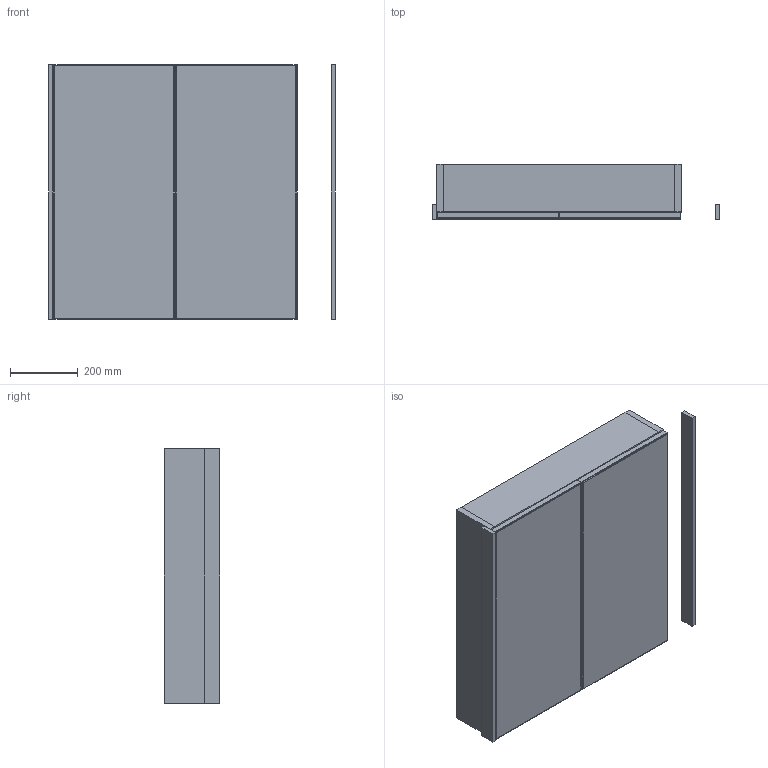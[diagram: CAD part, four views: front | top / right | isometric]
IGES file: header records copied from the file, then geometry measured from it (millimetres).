
Start section: Data from Parasolid IGES Translator 19.0.9, Copyright(c) 2006 Siemens PL M Software. All Rights Reserved.
Global section: file name: noorth-mirror-H 75 D 4,5-16 W 75_9135.igs; native system: By Siemens PLM Incorporated; preprocessor: XPlus GENERIC/IGES 19.0.9; author: Noname; organization: Noname; date: 20200519.105211; units: metre
Bounding box: 843.82 x 162 x 750 mm (x, y, z)
Volume: 21291966.4 mm3; surface area: 4704818.9 mm2
Topology: 14 solids, 14 shells, 168 faces, 324 edges, 184 vertices
Faces by surface type: plane 168
